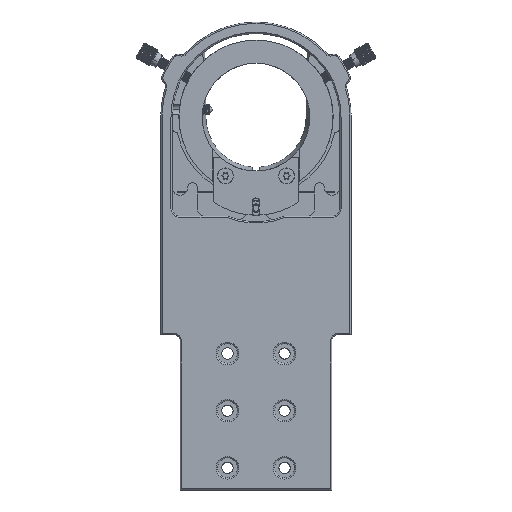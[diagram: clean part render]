
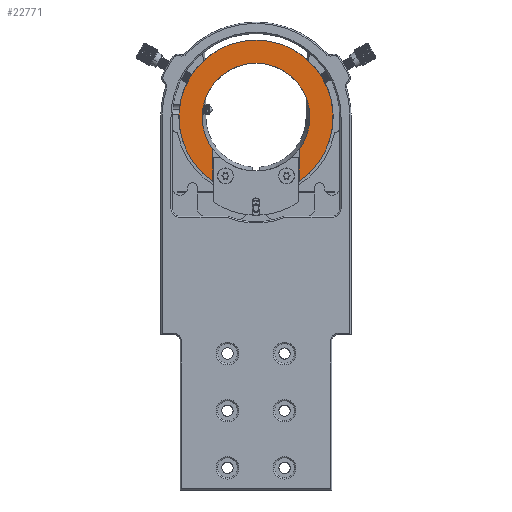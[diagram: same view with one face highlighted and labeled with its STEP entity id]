
A CAD part, front view. The second image highlights one B-rep face of the part: STEP entity #22771.
In plain terms, the highlighted planar face has unit normal (0, -1, 0).
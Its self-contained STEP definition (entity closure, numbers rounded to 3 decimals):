
#15556=CARTESIAN_POINT('',(-41.577,-12.447,
82.418));
#15557=DIRECTION('',(0.,-1.,0.));
#15558=DIRECTION('',(0.558,0.,-0.83));
#15559=AXIS2_PLACEMENT_3D('',#15556,#15557,#15558);
#16933=DIRECTION('',(0.,0.,-1.));
#16934=VECTOR('',#16933,12.588);
#16935=CARTESIAN_POINT('',(-58.798,-12.447,
69.396));
#16936=LINE('',#16935,#16934);
#16937=DIRECTION('',(0.,0.,1.));
#16938=VECTOR('',#16937,12.588);
#16939=CARTESIAN_POINT('',(-24.356,-12.447,
56.809));
#16940=LINE('',#16939,#16938);
#16941=CARTESIAN_POINT('',(-41.577,-12.447,
82.418));
#16942=DIRECTION('',(0.,-1.,0.));
#16943=DIRECTION('',(0.798,0.,-0.603));
#16944=AXIS2_PLACEMENT_3D('',#16941,#16942,#16943);
#19890=CARTESIAN_POINT('',(-58.798,-12.447,
69.396));
#19891=CARTESIAN_POINT('',(-58.798,-12.447,
56.809));
#19892=VERTEX_POINT('',#19890);
#19893=VERTEX_POINT('',#19891);
#19894=CARTESIAN_POINT('',(-24.356,-12.447,
56.809));
#19895=CARTESIAN_POINT('',(-24.356,-12.447,
69.396));
#19896=VERTEX_POINT('',#19894);
#19897=VERTEX_POINT('',#19895);
#22759=CARTESIAN_POINT('',(-41.577,-12.447,
82.418));
#22760=DIRECTION('',(0.,-1.,0.));
#22761=DIRECTION('',(0.,0.,-1.));
#22762=AXIS2_PLACEMENT_3D('',#22759,#22760,#22761);
#22763=PLANE('',#22762);
#22765=ORIENTED_EDGE('',*,*,#22764,.T.);
#22766=ORIENTED_EDGE('',*,*,#20440,.F.);
#22767=ORIENTED_EDGE('',*,*,#22753,.T.);
#22768=ORIENTED_EDGE('',*,*,#20358,.T.);
#22769=EDGE_LOOP('',(#22765,#22766,#22767,#22768));
#22770=FACE_OUTER_BOUND('',#22769,.F.);
#22771=ADVANCED_FACE('',(#22770),#22763,.T.);
#15560=CIRCLE('',#15559,30.861);
#16945=CIRCLE('',#16944,21.59);
#20358=EDGE_CURVE('',#19897,#19892,#16945,.T.);
#20440=EDGE_CURVE('',#19896,#19893,#15560,.T.);
#22753=EDGE_CURVE('',#19896,#19897,#16940,.T.);
#22764=EDGE_CURVE('',#19892,#19893,#16936,.T.);
